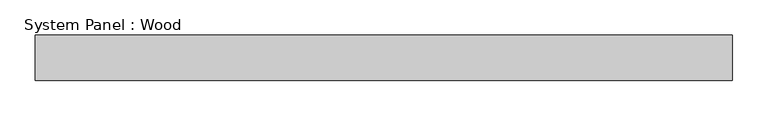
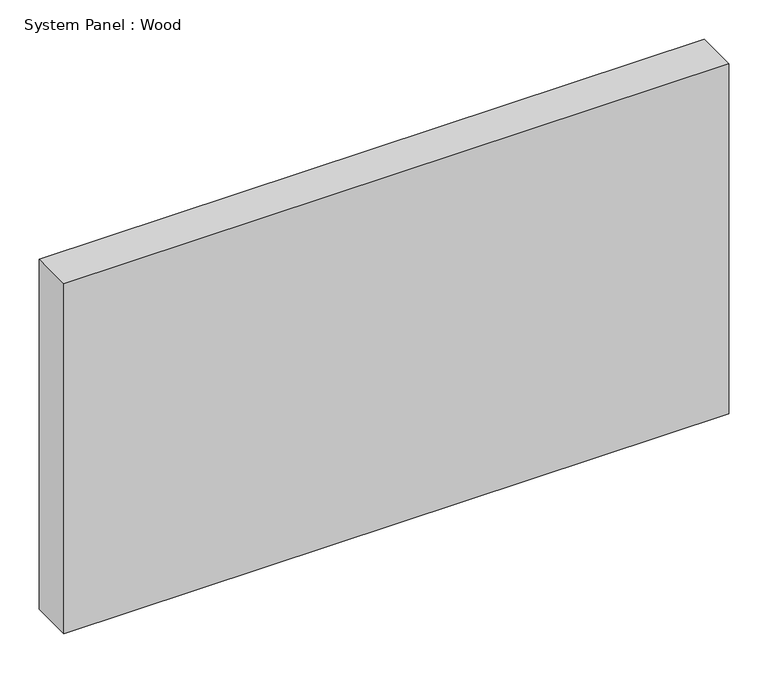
"""IFC4 building model written with IfcOpenShell, lengths in millimetres: plate geometry, System Panel : Wood."""

from ifc_helpers import new_model, si_unit, origin, origin_with_axes, place, context, project, spatial, polyline, outline, extrude, source, transform, mapped, element, save


def system_panel_wood_713b1532(model_context):
    return source(origin(), model_context, "Body", "SweptSolid", [
        extrude(outline(polyline([(490.9910714, -19.05), (-490.9910714, -19.05), (-490.9910714, 44.45), (490.9910714, 44.45), (490.9910714, -19.05)])), origin_with_axes(), (0.0, 0.0, 1.0), 546.1),
    ])


if __name__ == "__main__":
    model = new_model("IFC4")
    model_context = context("Model", 3, world=origin())
    ifc_project = project(units=[si_unit("LENGTHUNIT", "METRE", prefix="MILLI")], contexts=[model_context])
    site = spatial("IfcSite", under=ifc_project)
    building = spatial("IfcBuilding", under=site)
    placement = place(None, origin())
    system_panel_wood_shape = system_panel_wood_713b1532(model_context)
    element("IfcPlate", 1, ObjectType="System Panel : Wood", at=placement, inside=building, context=model_context, shape_type="MappedRepresentation", body=[
        mapped(system_panel_wood_shape, transform((0.0, 0.0, 0.0), x_axis=(1.0, 0.0, 0.0), y_axis=(0.0, 1.0, 0.0), z_axis=(0.0, 0.0, 1.0))),
    ])
    save(model, "model.ifc")
